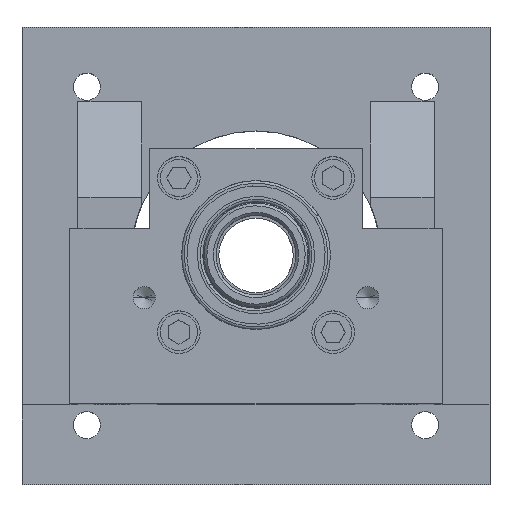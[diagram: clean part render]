
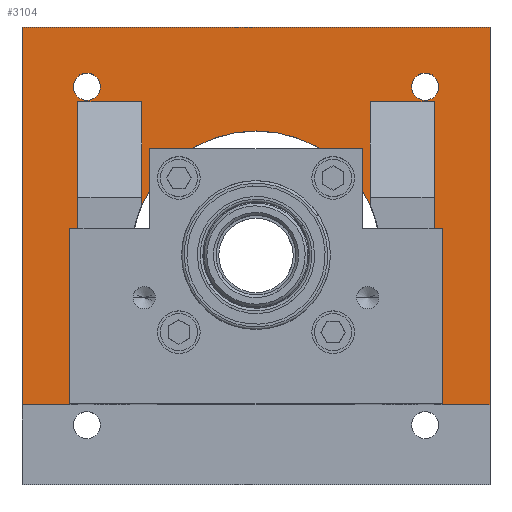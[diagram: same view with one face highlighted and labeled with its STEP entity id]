
A CAD part, top view. The second image highlights one B-rep face of the part: STEP entity #3104.
In plain terms, the highlighted planar face has unit normal (0, 0, 1).
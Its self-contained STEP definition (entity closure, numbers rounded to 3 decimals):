
#117 = CARTESIAN_POINT ( 'NONE',  ( -44., -28., -92. ) ) ;
#155 = CARTESIAN_POINT ( 'NONE',  ( 0., 0., -92. ) ) ;
#167 = VERTEX_POINT ( 'NONE', #13793 ) ;
#293 = CARTESIAN_POINT ( 'NONE',  ( -44., -28., -92. ) ) ;
#305 = AXIS2_PLACEMENT_3D ( 'NONE', #11964, #3250, #13426 ) ;
#318 = DIRECTION ( 'NONE',  ( 1., 0., 0. ) ) ;
#608 = CARTESIAN_POINT ( 'NONE',  ( -33.5, 29., -92. ) ) ;
#700 = CARTESIAN_POINT ( 'NONE',  ( 21.5, 9.487, -92. ) ) ;
#764 = DIRECTION ( 'NONE',  ( -1., 0., 0. ) ) ;
#782 = CARTESIAN_POINT ( 'NONE',  ( 34.37, 31.82, -92. ) ) ;
#1249 = VECTOR ( 'NONE', #6921, 1000. ) ;
#1388 = ORIENTED_EDGE ( 'NONE', *, *, #10269, .F. ) ;
#1440 = CARTESIAN_POINT ( 'NONE',  ( -34.37, 31.82, -92. ) ) ;
#1616 = DIRECTION ( 'NONE',  ( 1., 0., 0. ) ) ;
#1862 = EDGE_CURVE ( 'NONE', #3888, #9754, #2056, .T. ) ;
#1888 = VERTEX_POINT ( 'NONE', #13319 ) ;
#2056 = CIRCLE ( 'NONE', #15207, 23.5 ) ;
#2069 = VECTOR ( 'NONE', #16864, 1000. ) ;
#2303 = EDGE_CURVE ( 'NONE', #16925, #5615, #5252, .T. ) ;
#2502 = ORIENTED_EDGE ( 'NONE', *, *, #11513, .T. ) ;
#2611 = CARTESIAN_POINT ( 'NONE',  ( -44., -43., -92. ) ) ;
#2702 = ORIENTED_EDGE ( 'NONE', *, *, #4956, .F. ) ;
#3104 = ADVANCED_FACE ( 'NONE', ( #9307, #4991, #8842 ), #18668, .T. ) ;
#3164 = CARTESIAN_POINT ( 'NONE',  ( 33.5, -28., -92. ) ) ;
#3250 = DIRECTION ( 'NONE',  ( 0., 0., 1. ) ) ;
#3436 = CIRCLE ( 'NONE', #305, 2.55 ) ;
#3547 = VERTEX_POINT ( 'NONE', #1440 ) ;
#3571 = ORIENTED_EDGE ( 'NONE', *, *, #2303, .T. ) ;
#3593 = VERTEX_POINT ( 'NONE', #3164 ) ;
#3888 = VERTEX_POINT ( 'NONE', #700 ) ;
#4133 = EDGE_LOOP ( 'NONE', ( #10498, #2702 ) ) ;
#4394 = AXIS2_PLACEMENT_3D ( 'NONE', #5331, #15496, #6797 ) ;
#4516 = ORIENTED_EDGE ( 'NONE', *, *, #15991, .F. ) ;
#4767 = CIRCLE ( 'NONE', #4394, 2.55 ) ;
#4807 = EDGE_CURVE ( 'NONE', #9512, #16925, #10461, .T. ) ;
#4823 = CARTESIAN_POINT ( 'NONE',  ( -29.27, 31.82, -92. ) ) ;
#4877 = ORIENTED_EDGE ( 'NONE', *, *, #15023, .F. ) ;
#4905 = DIRECTION ( 'NONE',  ( 1., 0., 0. ) ) ;
#4956 = EDGE_CURVE ( 'NONE', #12957, #3547, #4767, .T. ) ;
#4991 = FACE_BOUND ( 'NONE', #4133, .T. ) ;
#5252 = LINE ( 'NONE', #10963, #12962 ) ;
#5331 = CARTESIAN_POINT ( 'NONE',  ( -31.82, 31.82, -92. ) ) ;
#5615 = VERTEX_POINT ( 'NONE', #6847 ) ;
#5623 = VECTOR ( 'NONE', #18174, 1000. ) ;
#5653 = CARTESIAN_POINT ( 'NONE',  ( -44., 43., -92. ) ) ;
#5856 = CARTESIAN_POINT ( 'NONE',  ( 44., 43., -92. ) ) ;
#5986 = DIRECTION ( 'NONE',  ( 0., 0., 1. ) ) ;
#6240 = VECTOR ( 'NONE', #10243, 1000. ) ;
#6512 = ORIENTED_EDGE ( 'NONE', *, *, #10401, .F. ) ;
#6542 = VERTEX_POINT ( 'NONE', #117 ) ;
#6787 = CARTESIAN_POINT ( 'NONE',  ( 44., -28., -92. ) ) ;
#6797 = DIRECTION ( 'NONE',  ( 1., 0., 0. ) ) ;
#6847 = CARTESIAN_POINT ( 'NONE',  ( -44., 43., -92. ) ) ;
#6921 = DIRECTION ( 'NONE',  ( 0., 1., 0. ) ) ;
#7488 = DIRECTION ( 'NONE',  ( 0., 1., 0. ) ) ;
#7493 = VERTEX_POINT ( 'NONE', #14381 ) ;
#7570 = DIRECTION ( 'NONE',  ( 1., 0., 0. ) ) ;
#8054 = LINE ( 'NONE', #11659, #16214 ) ;
#8125 = VERTEX_POINT ( 'NONE', #18788 ) ;
#8397 = CARTESIAN_POINT ( 'NONE',  ( 21.5, 4., -92. ) ) ;
#8535 = VERTEX_POINT ( 'NONE', #608 ) ;
#8588 = DIRECTION ( 'NONE',  ( 1., 0., 0. ) ) ;
#8808 = ORIENTED_EDGE ( 'NONE', *, *, #4807, .T. ) ;
#8834 = CIRCLE ( 'NONE', #10476, 2.55 ) ;
#8842 = FACE_BOUND ( 'NONE', #16407, .T. ) ;
#9051 = DIRECTION ( 'NONE',  ( 0., 0., 1. ) ) ;
#9213 = DIRECTION ( 'NONE',  ( -1., 0., 0. ) ) ;
#9280 = LINE ( 'NONE', #17904, #16093 ) ;
#9307 = FACE_OUTER_BOUND ( 'NONE', #18572, .T. ) ;
#9420 = VERTEX_POINT ( 'NONE', #782 ) ;
#9488 = LINE ( 'NONE', #2611, #17192 ) ;
#9512 = VERTEX_POINT ( 'NONE', #6787 ) ;
#9661 = LINE ( 'NONE', #11690, #6240 ) ;
#9710 = VECTOR ( 'NONE', #7570, 1000. ) ;
#9728 = EDGE_CURVE ( 'NONE', #9420, #7493, #8834, .T. ) ;
#9754 = VERTEX_POINT ( 'NONE', #14947 ) ;
#9822 = LINE ( 'NONE', #13952, #2069 ) ;
#9856 = CARTESIAN_POINT ( 'NONE',  ( -21.5, 29., -92. ) ) ;
#10217 = DIRECTION ( 'NONE',  ( 0., -1., 0. ) ) ;
#10243 = DIRECTION ( 'NONE',  ( 0., 1., 0. ) ) ;
#10269 = EDGE_CURVE ( 'NONE', #12080, #8535, #9280, .T. ) ;
#10344 = DIRECTION ( 'NONE',  ( 0., 0., 1. ) ) ;
#10401 = EDGE_CURVE ( 'NONE', #167, #8125, #17210, .T. ) ;
#10461 = LINE ( 'NONE', #14273, #13881 ) ;
#10476 = AXIS2_PLACEMENT_3D ( 'NONE', #14696, #5986, #16165 ) ;
#10498 = ORIENTED_EDGE ( 'NONE', *, *, #17938, .F. ) ;
#10613 = LINE ( 'NONE', #293, #9710 ) ;
#10963 = CARTESIAN_POINT ( 'NONE',  ( 44., 43., -92. ) ) ;
#10976 = EDGE_CURVE ( 'NONE', #5615, #6542, #9488, .T. ) ;
#11243 = EDGE_CURVE ( 'NONE', #6542, #1888, #10613, .T. ) ;
#11513 = EDGE_CURVE ( 'NONE', #3888, #8125, #17173, .T. ) ;
#11659 = CARTESIAN_POINT ( 'NONE',  ( -33.5, 4., -92. ) ) ;
#11690 = CARTESIAN_POINT ( 'NONE',  ( -21.5, 4., -92. ) ) ;
#11724 = VECTOR ( 'NONE', #4905, 1000. ) ;
#11964 = CARTESIAN_POINT ( 'NONE',  ( -31.82, 31.82, -92. ) ) ;
#12080 = VERTEX_POINT ( 'NONE', #9856 ) ;
#12181 = LINE ( 'NONE', #15070, #11724 ) ;
#12420 = AXIS2_PLACEMENT_3D ( 'NONE', #5653, #17272, #8588 ) ;
#12425 = ORIENTED_EDGE ( 'NONE', *, *, #10976, .T. ) ;
#12542 = ORIENTED_EDGE ( 'NONE', *, *, #1862, .F. ) ;
#12767 = ORIENTED_EDGE ( 'NONE', *, *, #9728, .F. ) ;
#12787 = DIRECTION ( 'NONE',  ( 0., -1., 0. ) ) ;
#12957 = VERTEX_POINT ( 'NONE', #4823 ) ;
#12962 = VECTOR ( 'NONE', #764, 1000. ) ;
#13319 = CARTESIAN_POINT ( 'NONE',  ( -33.5, -28., -92. ) ) ;
#13426 = DIRECTION ( 'NONE',  ( 1., 0., 0. ) ) ;
#13793 = CARTESIAN_POINT ( 'NONE',  ( 33.5, 29., -92. ) ) ;
#13881 = VECTOR ( 'NONE', #7488, 1000. ) ;
#13952 = CARTESIAN_POINT ( 'NONE',  ( 33.5, 4., -92. ) ) ;
#14065 = EDGE_CURVE ( 'NONE', #3593, #9512, #12181, .T. ) ;
#14263 = ORIENTED_EDGE ( 'NONE', *, *, #17936, .F. ) ;
#14273 = CARTESIAN_POINT ( 'NONE',  ( 44., -43., -92. ) ) ;
#14381 = CARTESIAN_POINT ( 'NONE',  ( 29.27, 31.82, -92. ) ) ;
#14696 = CARTESIAN_POINT ( 'NONE',  ( 31.82, 31.82, -92. ) ) ;
#14947 = CARTESIAN_POINT ( 'NONE',  ( -21.5, 9.487, -92. ) ) ;
#15023 = EDGE_CURVE ( 'NONE', #9754, #12080, #9661, .T. ) ;
#15038 = CIRCLE ( 'NONE', #18240, 2.55 ) ;
#15070 = CARTESIAN_POINT ( 'NONE',  ( -44., -28., -92. ) ) ;
#15207 = AXIS2_PLACEMENT_3D ( 'NONE', #155, #10344, #1616 ) ;
#15496 = DIRECTION ( 'NONE',  ( 0., 0., 1. ) ) ;
#15991 = EDGE_CURVE ( 'NONE', #8535, #1888, #8054, .T. ) ;
#16093 = VECTOR ( 'NONE', #9213, 1000. ) ;
#16126 = ORIENTED_EDGE ( 'NONE', *, *, #14065, .T. ) ;
#16165 = DIRECTION ( 'NONE',  ( 1., 0., 0. ) ) ;
#16214 = VECTOR ( 'NONE', #10217, 1000. ) ;
#16407 = EDGE_LOOP ( 'NONE', ( #14263, #12767 ) ) ;
#16864 = DIRECTION ( 'NONE',  ( 0., -1., 0. ) ) ;
#16925 = VERTEX_POINT ( 'NONE', #5856 ) ;
#17173 = LINE ( 'NONE', #8397, #1249 ) ;
#17192 = VECTOR ( 'NONE', #12787, 1000. ) ;
#17210 = LINE ( 'NONE', #18356, #5623 ) ;
#17272 = DIRECTION ( 'NONE',  ( 0., 0., 1. ) ) ;
#17497 = ORIENTED_EDGE ( 'NONE', *, *, #11243, .T. ) ;
#17729 = CARTESIAN_POINT ( 'NONE',  ( 31.82, 31.82, -92. ) ) ;
#17904 = CARTESIAN_POINT ( 'NONE',  ( -44., 29., -92. ) ) ;
#17936 = EDGE_CURVE ( 'NONE', #7493, #9420, #15038, .T. ) ;
#17938 = EDGE_CURVE ( 'NONE', #3547, #12957, #3436, .T. ) ;
#18078 = EDGE_CURVE ( 'NONE', #167, #3593, #9822, .T. ) ;
#18174 = DIRECTION ( 'NONE',  ( -1., 0., 0. ) ) ;
#18240 = AXIS2_PLACEMENT_3D ( 'NONE', #17729, #9051, #318 ) ;
#18266 = ORIENTED_EDGE ( 'NONE', *, *, #18078, .T. ) ;
#18356 = CARTESIAN_POINT ( 'NONE',  ( -44., 29., -92. ) ) ;
#18572 = EDGE_LOOP ( 'NONE', ( #16126, #8808, #3571, #12425, #17497, #4516, #1388, #4877, #12542, #2502, #6512, #18266 ) ) ;
#18668 = PLANE ( 'NONE',  #12420 ) ;
#18788 = CARTESIAN_POINT ( 'NONE',  ( 21.5, 29., -92. ) ) ;
